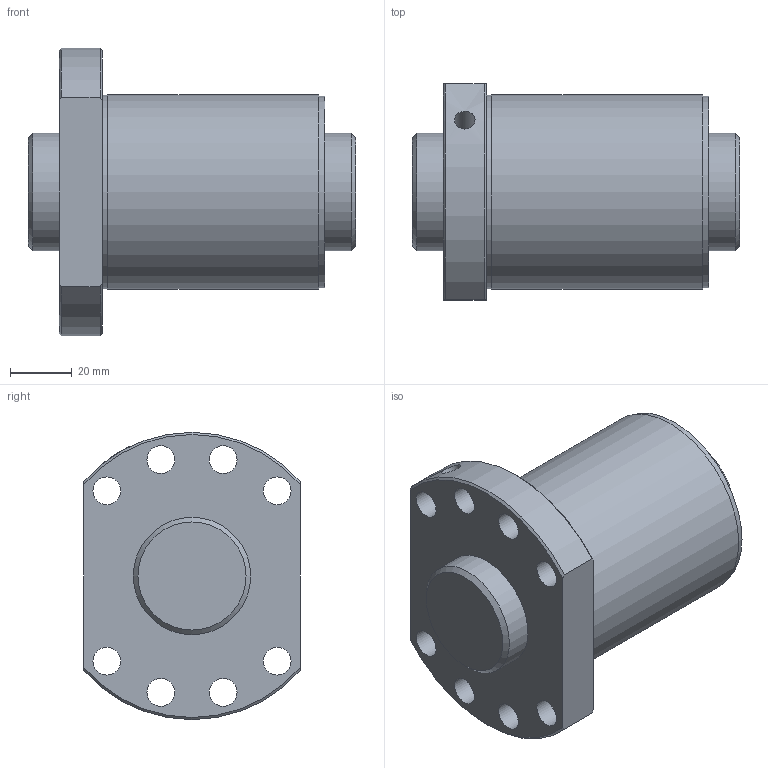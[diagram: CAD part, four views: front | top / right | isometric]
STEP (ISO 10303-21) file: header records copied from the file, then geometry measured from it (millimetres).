
FILE_DESCRIPTION(/* description */ ('STEP AP203'),/* implementation_level */ '2;1');
FILE_NAME(/* name */ 'SDA3815V-5G0+106LC0(0G000)',/* time_stamp */ '2024-05-28T11:33:43+02:00',/* author */ ('License CC BY-ND 4.0'),/* organization */ ('CADENAS'),/* preprocessor_version */ 'ST-DEVELOPER v19.3',/* originating_system */ 'PARTsolutions',/* authorisation */ ' ');
FILE_SCHEMA (('CONFIG_CONTROL_DESIGN'));
Length unit declared in the file: millimetre
Products named in the file (3): SDA3815V-5G0+106LC0(0G000); 000SDA3815V-50Shaft; SDA-V serieSDA3815V-5nut
Assembly tree (2 placements, depth 2):
  SDA3815V-5G0+106LC0(0G000)
    000SDA3815V-50Shaft
    SDA-V serieSDA3815V-5nut
Bounding box: 106 x 70 x 93 mm (x, y, z)
Volume: 320147.5 mm3; surface area: 55120.5 mm2
Topology: 2 solids, 2 shells, 33 faces, 75 edges, 49 vertices
Faces by surface type: cylinder 17, plane 9, cone 7
Full cylindrical faces by diameter (mm): 5.2 x1, 6.647 x1, 9 x8, 38 x2, 62 x1, 62.6 x1, 63 x1
Entity records: 983 total; most frequent: CARTESIAN_POINT 184, DIRECTION 156, ORIENTED_EDGE 112, EDGE_LOOP 74, FACE_BOUND 74, AXIS2_PLACEMENT_3D 74, EDGE_CURVE 56, VERTEX_POINT 48
